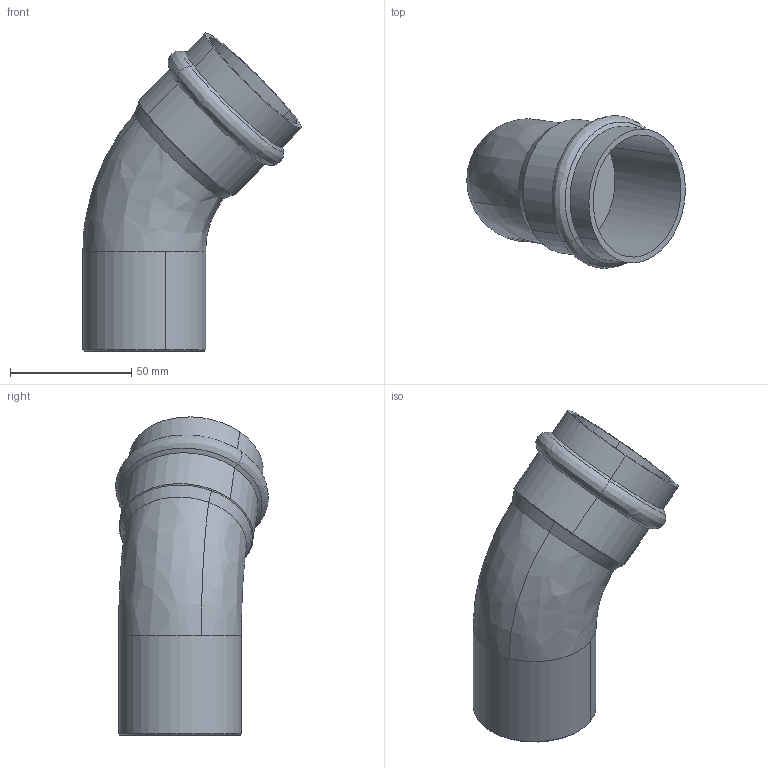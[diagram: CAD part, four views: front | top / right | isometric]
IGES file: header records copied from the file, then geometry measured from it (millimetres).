
Start section: 3D InterOp IGES (Version 25 0 1), Spatial Corp. Copyright (c) 1999-2007.
Global section: file name: pim0004555.igs; native system: Spatial Corp.; preprocessor: 3D InterOp ACIS/IGES; author: Cad-Pim; organization: TransMagic, Inc.; date: 20150430.173413; units: millimetre
Bounding box: 90.19 x 62.96 x 131.38 mm (x, y, z)
Volume: 201734.3 mm3; surface area: 32566.7 mm2
Topology: 1 solids, 1 shells, 25 faces, 66 edges, 44 vertices
Faces by surface type: bspline 9, cylinder 8, cone 8
